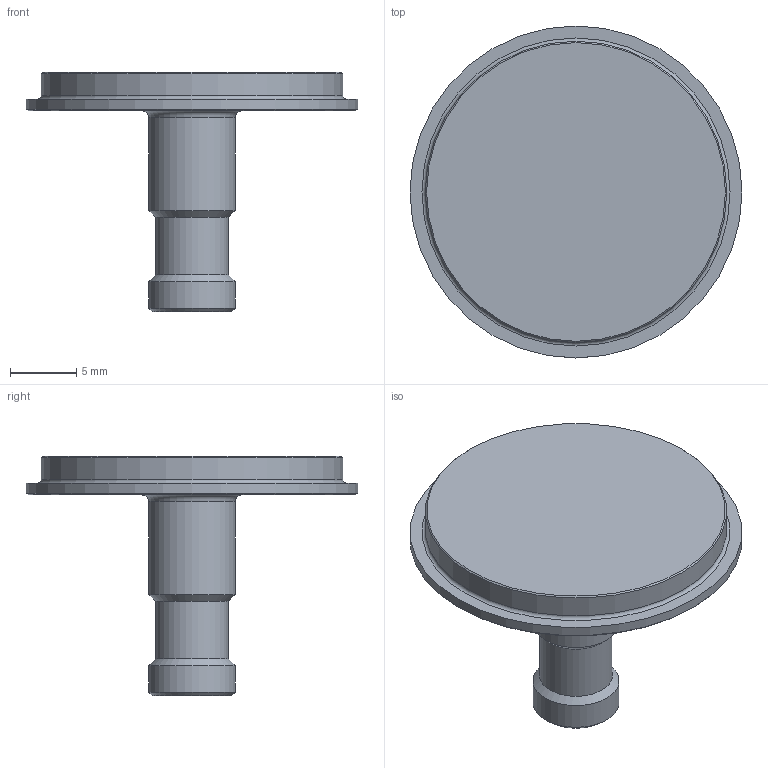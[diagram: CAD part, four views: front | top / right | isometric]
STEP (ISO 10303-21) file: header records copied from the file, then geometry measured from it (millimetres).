
FILE_DESCRIPTION(/* description */ (''),/* implementation_level */ '2;1');
FILE_NAME(/* name */ 'LA-2237-0682#-A.stp',/* time_stamp */ '2013-01-09T07:21:32+00:00',/* author */ (''),/* organization */ (''),/* preprocessor_version */ 'ST-DEVELOPER v11',/* originating_system */ 'SIEMENS PLM Software NX 7.5',/* authorisation */ '');
FILE_SCHEMA (('AUTOMOTIVE_DESIGN { 1 0 10303 214 1 1 1 1 }'));
Length unit declared in the file: millimetre
Products named in the file (1): rt13F371ck1u
Bounding box: 25 x 25 x 18 mm (x, y, z)
Volume: 1706.7 mm3; surface area: 1469.9 mm2
Topology: 1 solids, 1 shells, 16 faces, 28 edges, 16 vertices
Faces by surface type: cone 5, cylinder 5, plane 4, torus 2
Full cylindrical faces by diameter (mm): 5.5 x1, 6.5 x2, 22.7 x1, 25 x1
Entity records: 338 total; most frequent: DIRECTION 64, CARTESIAN_POINT 47, AXIS2_PLACEMENT_3D 32, EDGE_LOOP 30, ORIENTED_EDGE 30, FACE_BOUND 28, ADVANCED_FACE 16, VERTEX_POINT 15
